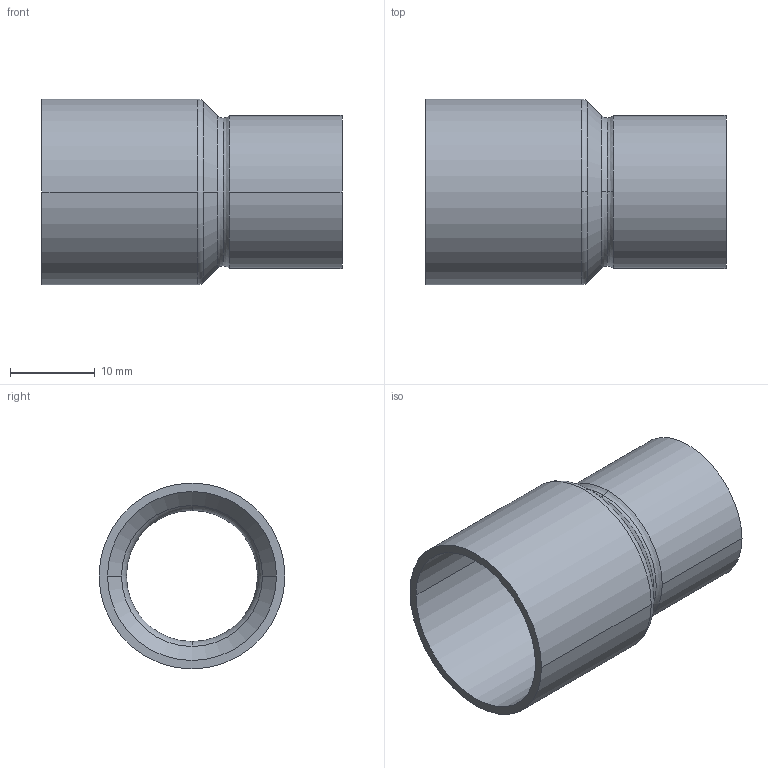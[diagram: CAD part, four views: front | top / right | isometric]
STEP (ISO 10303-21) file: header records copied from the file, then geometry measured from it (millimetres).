
FILE_DESCRIPTION((''),'2;1');
FILE_NAME('G:\Technics\CAD\Bauteile\Serie 15243\152432216.stp','2005-10-21T12:49:37',('boden'),(''),'Autodesk Inventor 8','Autodesk Inventor 8','');
FILE_SCHEMA(('AUTOMOTIVE_DESIGN { 1 0 10303 214 1 1 1 1 }'));
Length unit declared in the file: millimetre
Products named in the file (1): 152432216
Bounding box: 35.5 x 22 x 22 mm (x, y, z)
Volume: 2198.3 mm3; surface area: 4516.7 mm2
Topology: 1 solids, 1 shells, 24 faces, 60 edges, 38 vertices
Faces by surface type: cylinder 8, torus 6, bspline 4, cone 4, plane 2
Entity records: 931 total; most frequent: CARTESIAN_POINT 299, DIRECTION 150, ORIENTED_EDGE 120, AXIS2_PLACEMENT_3D 69, EDGE_CURVE 60, CIRCLE 48, VERTEX_POINT 38, EDGE_LOOP 26
